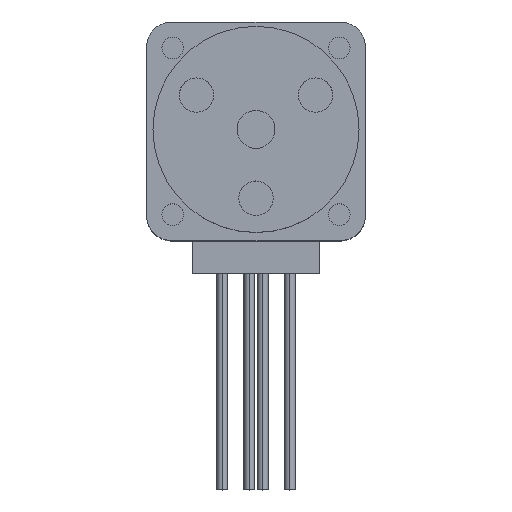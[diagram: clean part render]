
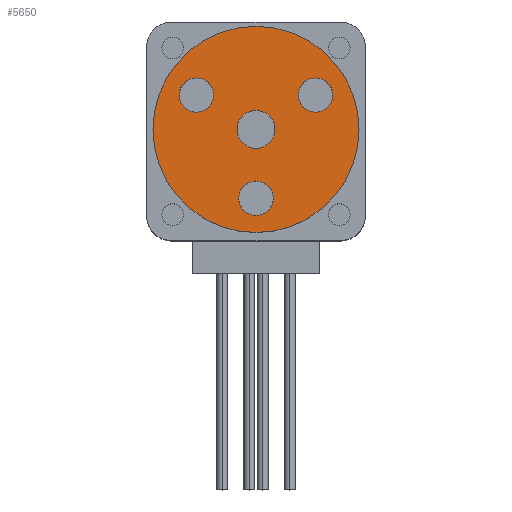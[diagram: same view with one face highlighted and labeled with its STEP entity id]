
A CAD part, top view. The second image highlights one B-rep face of the part: STEP entity #5650.
In plain terms, the highlighted planar face has unit normal (0, 0, 1).
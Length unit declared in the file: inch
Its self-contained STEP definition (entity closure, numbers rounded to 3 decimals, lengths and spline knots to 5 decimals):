
#154 = CARTESIAN_POINT ( 'NONE',  ( 0., 0., 0. ) ) ;
#203 = CARTESIAN_POINT ( 'NONE',  ( 0., 0., 0. ) ) ;
#398 = CARTESIAN_POINT ( 'NONE',  ( -0.15401, 0.125, 0. ) ) ;
#473 = EDGE_CURVE ( 'NONE', #6505, #4703, #3375, .T. ) ;
#601 = VERTEX_POINT ( 'NONE', #5094 ) ;
#602 = FACE_BOUND ( 'NONE', #1737, .T. ) ;
#635 = DIRECTION ( 'NONE',  ( 0., 0., 1. ) ) ;
#764 = VERTEX_POINT ( 'NONE', #6731 ) ;
#842 = EDGE_CURVE ( 'NONE', #4703, #6505, #9685, .T. ) ;
#916 = DIRECTION ( 'NONE',  ( 1., 0., 0. ) ) ;
#957 = CIRCLE ( 'NONE', #2953, 0.0689 ) ;
#1092 = EDGE_CURVE ( 'NONE', #4452, #4645, #2008, .T. ) ;
#1322 = CIRCLE ( 'NONE', #8032, 0.0625 ) ;
#1439 = AXIS2_PLACEMENT_3D ( 'NONE', #8760, #6639, #8022 ) ;
#1490 = ORIENTED_EDGE ( 'NONE', *, *, #6254, .F. ) ;
#1689 = VERTEX_POINT ( 'NONE', #398 ) ;
#1722 = CARTESIAN_POINT ( 'NONE',  ( 0., 0., 0. ) ) ;
#1737 = EDGE_LOOP ( 'NONE', ( #1772, #2694 ) ) ;
#1770 = VERTEX_POINT ( 'NONE', #7744 ) ;
#1772 = ORIENTED_EDGE ( 'NONE', *, *, #1092, .F. ) ;
#1842 = EDGE_CURVE ( 'NONE', #1770, #6955, #6338, .T. ) ;
#1883 = AXIS2_PLACEMENT_3D ( 'NONE', #2732, #6458, #3320 ) ;
#1902 = DIRECTION ( 'NONE',  ( 1., 0., 0. ) ) ;
#2008 = CIRCLE ( 'NONE', #9372, 0.0625 ) ;
#2042 = DIRECTION ( 'NONE',  ( 0., 0., 1. ) ) ;
#2298 = FACE_OUTER_BOUND ( 'NONE', #5880, .T. ) ;
#2630 = EDGE_CURVE ( 'NONE', #4564, #764, #957, .T. ) ;
#2694 = ORIENTED_EDGE ( 'NONE', *, *, #6240, .F. ) ;
#2731 = ORIENTED_EDGE ( 'NONE', *, *, #6111, .F. ) ;
#2732 = CARTESIAN_POINT ( 'NONE',  ( 0., 0., 0. ) ) ;
#2818 = AXIS2_PLACEMENT_3D ( 'NONE', #7737, #3340, #4770 ) ;
#2861 = DIRECTION ( 'NONE',  ( 1., 0., 0. ) ) ;
#2877 = ORIENTED_EDGE ( 'NONE', *, *, #7976, .F. ) ;
#2909 = AXIS2_PLACEMENT_3D ( 'NONE', #4300, #8769, #1902 ) ;
#2917 = EDGE_CURVE ( 'NONE', #764, #4564, #6091, .T. ) ;
#2953 = AXIS2_PLACEMENT_3D ( 'NONE', #3032, #2042, #4193 ) ;
#3032 = CARTESIAN_POINT ( 'NONE',  ( 0., 0., 0. ) ) ;
#3101 = DIRECTION ( 'NONE',  ( 1., 0., 0. ) ) ;
#3135 = CIRCLE ( 'NONE', #1439, 0.0625 ) ;
#3267 = CARTESIAN_POINT ( 'NONE',  ( 0.375, 0., 0. ) ) ;
#3320 = DIRECTION ( 'NONE',  ( 1., 0., 0. ) ) ;
#3340 = DIRECTION ( 'NONE',  ( 0., 0., 1. ) ) ;
#3375 = CIRCLE ( 'NONE', #8560, 0.375 ) ;
#3574 = FACE_BOUND ( 'NONE', #9395, .T. ) ;
#3864 = CARTESIAN_POINT ( 'NONE',  ( 0.0689, 0., 0. ) ) ;
#3907 = PLANE ( 'NONE',  #6598 ) ;
#3944 = EDGE_LOOP ( 'NONE', ( #2731, #2877 ) ) ;
#4074 = ORIENTED_EDGE ( 'NONE', *, *, #842, .T. ) ;
#4193 = DIRECTION ( 'NONE',  ( 1., 0., 0. ) ) ;
#4300 = CARTESIAN_POINT ( 'NONE',  ( 0.21651, 0.125, 0. ) ) ;
#4417 = DIRECTION ( 'NONE',  ( 1., 0., 0. ) ) ;
#4452 = VERTEX_POINT ( 'NONE', #5637 ) ;
#4505 = DIRECTION ( 'NONE',  ( -1., 0., 0. ) ) ;
#4558 = CARTESIAN_POINT ( 'NONE',  ( -0.21651, 0.125, 0. ) ) ;
#4564 = VERTEX_POINT ( 'NONE', #3864 ) ;
#4645 = VERTEX_POINT ( 'NONE', #5974 ) ;
#4703 = VERTEX_POINT ( 'NONE', #3267 ) ;
#4770 = DIRECTION ( 'NONE',  ( 1., 0., 0. ) ) ;
#5094 = CARTESIAN_POINT ( 'NONE',  ( -0.27901, 0.125, 0. ) ) ;
#5191 = CARTESIAN_POINT ( 'NONE',  ( 0., -0.25, 0. ) ) ;
#5407 = DIRECTION ( 'NONE',  ( 1., 0., 0. ) ) ;
#5610 = ORIENTED_EDGE ( 'NONE', *, *, #2917, .F. ) ;
#5637 = CARTESIAN_POINT ( 'NONE',  ( 0.0625, -0.25, 0. ) ) ;
#5650 = ADVANCED_FACE ( 'NONE', ( #602, #3574, #9624, #6555, #2298 ), #3907, .F. ) ;
#5880 = EDGE_LOOP ( 'NONE', ( #4074, #6435 ) ) ;
#5948 = CIRCLE ( 'NONE', #2818, 0.0625 ) ;
#5974 = CARTESIAN_POINT ( 'NONE',  ( -0.0625, -0.25, 0. ) ) ;
#5975 = EDGE_LOOP ( 'NONE', ( #6487, #5610 ) ) ;
#6015 = DIRECTION ( 'NONE',  ( 0., 0., 1. ) ) ;
#6037 = CARTESIAN_POINT ( 'NONE',  ( 0.27901, 0.125, 0. ) ) ;
#6091 = CIRCLE ( 'NONE', #1883, 0.0689 ) ;
#6111 = EDGE_CURVE ( 'NONE', #1689, #601, #5948, .T. ) ;
#6240 = EDGE_CURVE ( 'NONE', #4645, #4452, #3135, .T. ) ;
#6254 = EDGE_CURVE ( 'NONE', #6955, #1770, #6901, .T. ) ;
#6338 = CIRCLE ( 'NONE', #2909, 0.0625 ) ;
#6435 = ORIENTED_EDGE ( 'NONE', *, *, #473, .T. ) ;
#6458 = DIRECTION ( 'NONE',  ( 0., 0., 1. ) ) ;
#6487 = ORIENTED_EDGE ( 'NONE', *, *, #2630, .F. ) ;
#6505 = VERTEX_POINT ( 'NONE', #8154 ) ;
#6555 = FACE_BOUND ( 'NONE', #5975, .T. ) ;
#6598 = AXIS2_PLACEMENT_3D ( 'NONE', #1722, #6900, #4505 ) ;
#6639 = DIRECTION ( 'NONE',  ( 0., 0., 1. ) ) ;
#6731 = CARTESIAN_POINT ( 'NONE',  ( -0.0689, 0., 0. ) ) ;
#6900 = DIRECTION ( 'NONE',  ( 0., 0., -1. ) ) ;
#6901 = CIRCLE ( 'NONE', #8163, 0.0625 ) ;
#6955 = VERTEX_POINT ( 'NONE', #6037 ) ;
#6981 = DIRECTION ( 'NONE',  ( 0., 0., 1. ) ) ;
#7737 = CARTESIAN_POINT ( 'NONE',  ( -0.21651, 0.125, 0. ) ) ;
#7744 = CARTESIAN_POINT ( 'NONE',  ( 0.15401, 0.125, 0. ) ) ;
#7753 = ORIENTED_EDGE ( 'NONE', *, *, #1842, .F. ) ;
#7976 = EDGE_CURVE ( 'NONE', #601, #1689, #1322, .T. ) ;
#8022 = DIRECTION ( 'NONE',  ( 1., 0., 0. ) ) ;
#8032 = AXIS2_PLACEMENT_3D ( 'NONE', #4558, #6015, #4417 ) ;
#8154 = CARTESIAN_POINT ( 'NONE',  ( -0.375, 0., 0. ) ) ;
#8163 = AXIS2_PLACEMENT_3D ( 'NONE', #9597, #635, #2861 ) ;
#8449 = DIRECTION ( 'NONE',  ( 0., 0., 1. ) ) ;
#8560 = AXIS2_PLACEMENT_3D ( 'NONE', #203, #6981, #5407 ) ;
#8574 = AXIS2_PLACEMENT_3D ( 'NONE', #154, #9202, #3101 ) ;
#8760 = CARTESIAN_POINT ( 'NONE',  ( 0., -0.25, 0. ) ) ;
#8769 = DIRECTION ( 'NONE',  ( 0., 0., 1. ) ) ;
#9202 = DIRECTION ( 'NONE',  ( 0., 0., 1. ) ) ;
#9372 = AXIS2_PLACEMENT_3D ( 'NONE', #5191, #8449, #916 ) ;
#9395 = EDGE_LOOP ( 'NONE', ( #1490, #7753 ) ) ;
#9597 = CARTESIAN_POINT ( 'NONE',  ( 0.21651, 0.125, 0. ) ) ;
#9624 = FACE_BOUND ( 'NONE', #3944, .T. ) ;
#9685 = CIRCLE ( 'NONE', #8574, 0.375 ) ;
